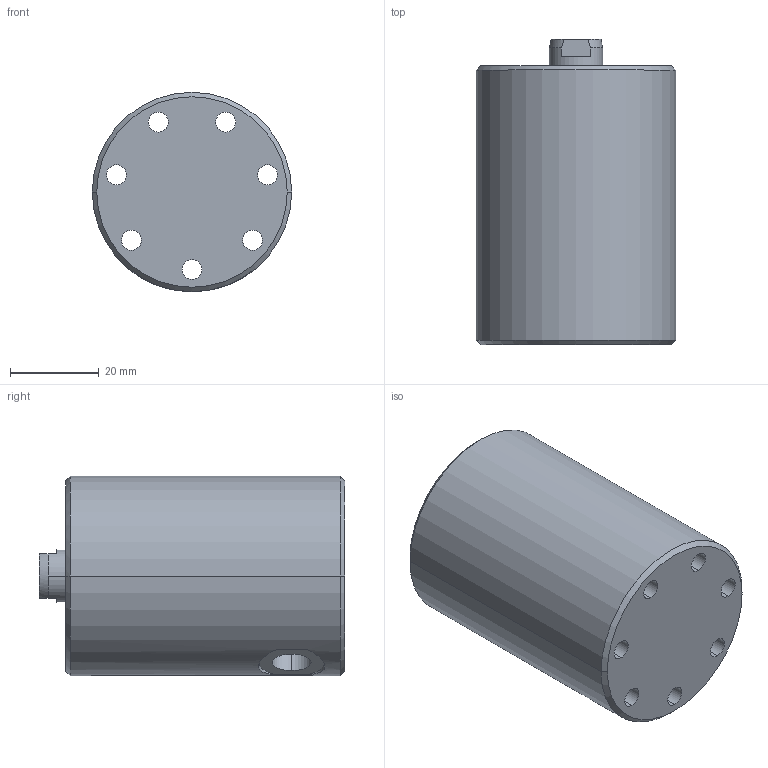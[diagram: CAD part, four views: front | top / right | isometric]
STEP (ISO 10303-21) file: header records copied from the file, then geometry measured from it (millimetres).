
FILE_DESCRIPTION (( 'STEP AP203' ), '1' );
FILE_NAME ('Compact cylinder C02C-4525.STEP', '2022-07-09T17:50:04', ( '' ), ( '' ), 'SwSTEP 2.0', 'SolidWorks 2017', '' );
FILE_SCHEMA (( 'CONFIG_CONTROL_DESIGN' ));
Length unit declared in the file: millimetre
Products named in the file (3): C01C-4525 HOUSING; C02C-4525-piston-2; Compact cylinder C02C-4525
Assembly tree (2 placements, depth 2):
  Compact cylinder C02C-4525
    C01C-4525 HOUSING
    C02C-4525-piston-2
Bounding box: 45 x 69 x 45 mm (x, y, z)
Volume: 92691.7 mm3; surface area: 22391.9 mm2
Topology: 2 solids, 2 shells, 252 faces, 662 edges, 432 vertices
Faces by surface type: plane 110, bspline 85, cylinder 44, cone 13
Entity records: 13063 total; most frequent: CARTESIAN_POINT 7046, ORIENTED_EDGE 1312, DIRECTION 930, EDGE_CURVE 656, VERTEX_POINT 432, LINE 370, VECTOR 370, EDGE_LOOP 290
